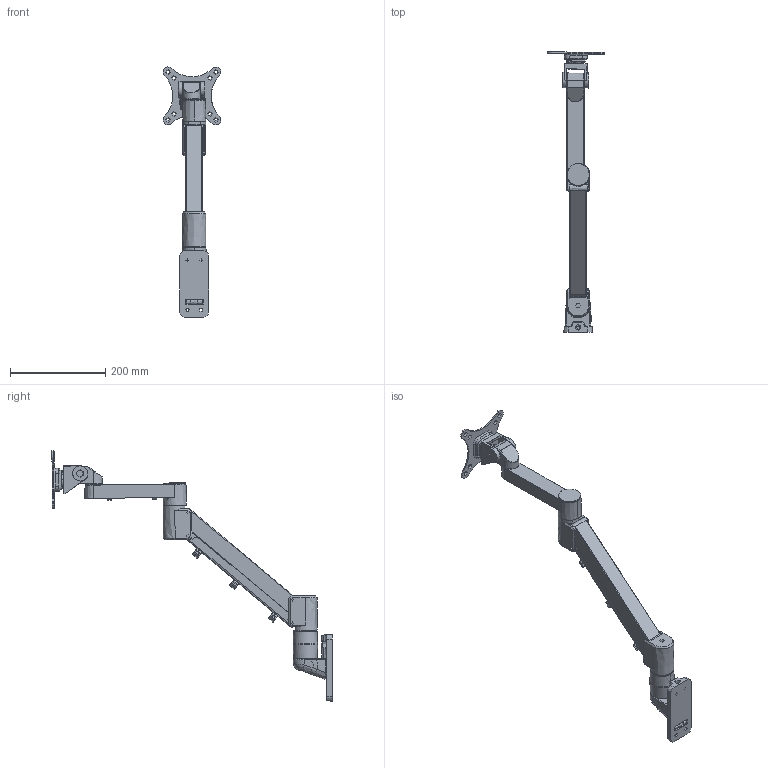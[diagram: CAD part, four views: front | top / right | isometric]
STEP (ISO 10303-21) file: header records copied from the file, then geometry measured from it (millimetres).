
FILE_DESCRIPTION(/* description */ (''),/* implementation_level */ '2;1');
FILE_NAME(/* name */ 'A104',/* time_stamp */ '2018-05-21T11:37:05+08:00',/* author */ (''),/* organization */ (''),/* preprocessor_version */ 'ST-DEVELOPER v15',/* originating_system */ '',/* authorisation */ '');
FILE_SCHEMA (('CONFIG_CONTROL_DESIGN'));
Products named in the file (6): Document; A1-CU-01_1; A1-FE-14_1; A1-FE-16_10; A1-PA-07_5; PRT0442
Assembly tree (11 placements, depth 2):
  Document
    A1-CU-01_1  x4
    A1-FE-14_1  x4
    A1-FE-16_10
    A1-PA-07_5
    PRT0442
Bounding box: 121.44 x 587.13 x 524.18 mm (x, y, z)
Volume: 1582266.8 mm3; surface area: 290249.9 mm2
Topology: 30 solids, 34 shells, 4153 faces, 9807 edges, 5715 vertices
Faces by surface type: plane 2621, bspline 1532
Entity records: 122699 total; most frequent: CARTESIAN_POINT 75018, ORIENTED_EDGE 14844, EDGE_CURVE 7440, B_SPLINE_CURVE_WITH_KNOTS 4648, VERTEX_POINT 4276, EDGE_LOOP 3313, ADVANCED_FACE 3223, FACE_OUTER_BOUND 3223
